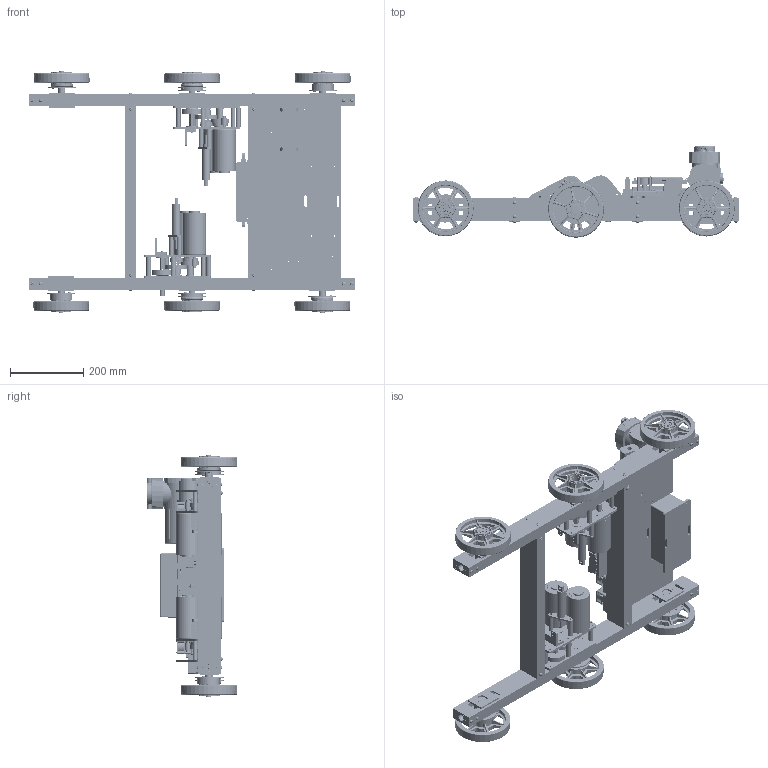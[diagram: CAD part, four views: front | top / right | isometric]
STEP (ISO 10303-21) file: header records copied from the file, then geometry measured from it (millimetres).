
FILE_DESCRIPTION((''),'2;1');
FILE_NAME('LAYOUT_TESTBED_ASM','2023-11-29T17:41:54',('rstockto'),('NASA_JSC'),'CREO PARAMETRIC BY PTC INC, 2018500','CREO PARAMETRIC BY PTC INC, 2018500','');
FILE_SCHEMA(('AUTOMOTIVE_DESIGN { 1 0 10303 214 1 1 1 1 }'));
Length unit declared in the file: inch
Products named in the file (152): CHASSIS_TUBE_ADJUSTABLE; AXLE_BLOCK_ADJUSTABLE; CLAMP_PLATE_ADJUSTABLE; FIRST_WHEEL_SHAFT; FHCS_91253A242; SNAP_RING_97633A200; AXLE_BLOCK_ADJUSTABLE_IAM___1__ASM; BEARING_BLOCK__25; NONE; NONEA; NONEB; NONEC; NONED; NONEE; NONEF; NONEG; NONEH; NONEI; NONEJ; NONEK; BALL_BEARING_60355K150_ASM; CENTER_DRIVE__25_IAM___2__ASM; TENSION_END_PLUG; BHCS_91255A242; HUB; TREAD; 2008-FIRST-WHEEL_ASM; FIRST_WHEEL_BUSHING; AM_36T_SPROCKET; _25_SPROCKET_SPACER; FIRST_WHEEL_ASM_ASM; _614_SPACER; FIRST_WHEEL_ASM_THICK_ASM; AM_UNIVERSAL-HUB; 062_SPROCKET_SPACER; FIRST_DRIVE_BUSHING; FIRST_DRIVE_WHEEL_ASM_ASM; SHCS_1_5_91251A251; ALUMINUM_FLAT_WASHER; BHCS_WASHER_ASM_ASM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
Assembly tree (363 placements, depth 5):
  LAYOUT_TESTBED_ASM
    CHASSIS_SIDE_ADJUSTABLE_IAM___1_ASM
      CHASSIS_TUBE_ADJUSTABLE
      AXLE_BLOCK_ADJUSTABLE_IAM___1__ASM  x2
        AXLE_BLOCK_ADJUSTABLE
        CLAMP_PLATE_ADJUSTABLE
        FIRST_WHEEL_SHAFT
        FHCS_91253A242
        SNAP_RING_97633A200
      CENTER_DRIVE__25_IAM___2__ASM
        BEARING_BLOCK__25
        CLAMP_PLATE_ADJUSTABLE  x2
        BALL_BEARING_60355K150_ASM  x2
          NONE
          NONEA
          NONEB
          NONEC
          NONED
          NONEE
          NONEF
          NONEG
          NONEH
          NONEI
          NONEJ
          NONEK
        SNAP_RING_97633A200
        FHCS_91253A242  x4
      TENSION_END_PLUG  x2
      FIRST_WHEEL_ASM_ASM
        BHCS_91255A242
        2008-FIRST-WHEEL_ASM
          HUB
          TREAD
        BALL_BEARING_60355K150_ASM  x2
          NONE
          NONEA
          NONEB
          NONEC
          NONED
          NONEE
          NONEF
          NONEG
          NONEH
          NONEI
          NONEJ
          NONEK
        FIRST_WHEEL_BUSHING
        AM_36T_SPROCKET
        _25_SPROCKET_SPACER
      FIRST_WHEEL_ASM_THICK_ASM
        BHCS_91255A242
        2008-FIRST-WHEEL_ASM
          HUB
          TREAD
        BALL_BEARING_60355K150_ASM  x2
          NONE
          NONEA
          NONEB
          NONEC
          NONED
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Bounding box: 889 x 248.69 x 663.8 mm (x, y, z)
Volume: 8825309.9 mm3; surface area: 3652232.2 mm2
Topology: 579 solids, 868 shells, 43718 faces, 107128 edges, 64476 vertices
Faces by surface type: plane 16129, cylinder 13624, cone 5530, bspline 4699, torus 2832, sphere 542, revolution 360, extrusion 2
Entity records: 421658 total; most frequent: CARTESIAN_POINT 145888, DIRECTION 44631, ORIENTED_EDGE 42943, EDGE_CURVE 22126, PRESENTATION_STYLE_ASSIGNMENT 17670, STYLED_ITEM 17568, AXIS2_PLACEMENT_3D 17034, CURVE_STYLE 16730
